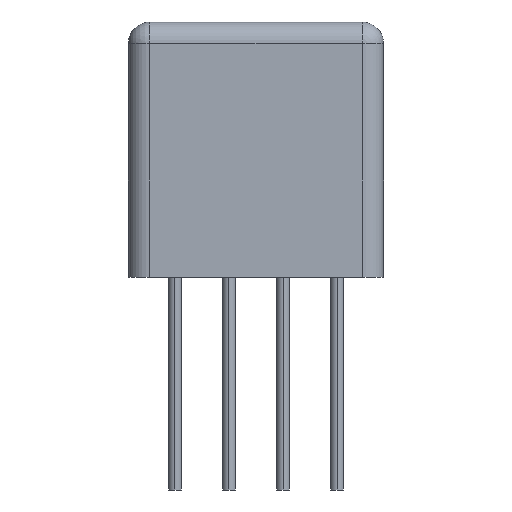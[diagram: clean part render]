
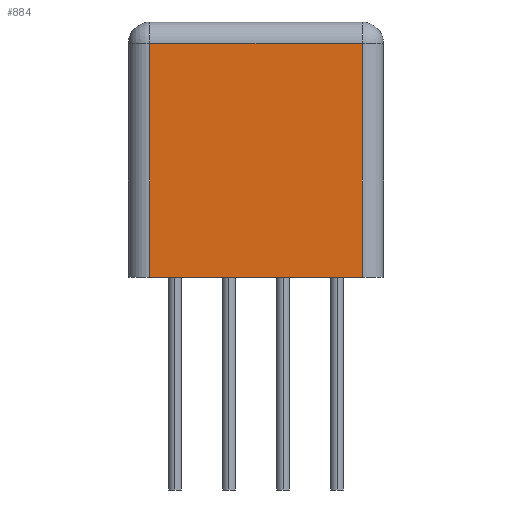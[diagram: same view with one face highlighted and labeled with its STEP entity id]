
A CAD part, left-side view. The second image highlights one B-rep face of the part: STEP entity #884.
In plain terms, the highlighted planar face has unit normal (-1, 0, 0).
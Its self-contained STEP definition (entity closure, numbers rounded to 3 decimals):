
#438 = ORIENTED_EDGE ( 'NONE', *, *, #3883, .T. ) ;
#720 = VERTEX_POINT ( 'NONE', #3588 ) ;
#826 = CARTESIAN_POINT ( 'NONE',  ( -6., 6., 0. ) ) ;
#832 = LINE ( 'NONE', #4419, #6226 ) ;
#884 = ADVANCED_FACE ( 'NONE', ( #2307 ), #2841, .F. ) ;
#935 = VERTEX_POINT ( 'NONE', #1298 ) ;
#1021 = DIRECTION ( 'NONE',  ( 0., -1., 0. ) ) ;
#1298 = CARTESIAN_POINT ( 'NONE',  ( -6., -5., 0. ) ) ;
#1556 = DIRECTION ( 'NONE',  ( 0., 1., 0. ) ) ;
#1774 = VECTOR ( 'NONE', #1556, 1000. ) ;
#1867 = EDGE_CURVE ( 'NONE', #2407, #720, #3805, .T. ) ;
#1955 = CARTESIAN_POINT ( 'NONE',  ( -6., 6., 11. ) ) ;
#2307 = FACE_OUTER_BOUND ( 'NONE', #5392, .T. ) ;
#2407 = VERTEX_POINT ( 'NONE', #2522 ) ;
#2522 = CARTESIAN_POINT ( 'NONE',  ( -6., 5., 11. ) ) ;
#2748 = DIRECTION ( 'NONE',  ( 1., 0., 0. ) ) ;
#2841 = PLANE ( 'NONE',  #3219 ) ;
#3213 = VERTEX_POINT ( 'NONE', #4627 ) ;
#3219 = AXIS2_PLACEMENT_3D ( 'NONE', #4197, #2748, #4877 ) ;
#3333 = LINE ( 'NONE', #826, #4524 ) ;
#3588 = CARTESIAN_POINT ( 'NONE',  ( -6., 5., 0. ) ) ;
#3805 = LINE ( 'NONE', #5828, #6508 ) ;
#3883 = EDGE_CURVE ( 'NONE', #935, #3213, #832, .T. ) ;
#4197 = CARTESIAN_POINT ( 'NONE',  ( -6., 6., 12. ) ) ;
#4419 = CARTESIAN_POINT ( 'NONE',  ( -6., -5., 12. ) ) ;
#4453 = ORIENTED_EDGE ( 'NONE', *, *, #5001, .T. ) ;
#4524 = VECTOR ( 'NONE', #1021, 1000. ) ;
#4627 = CARTESIAN_POINT ( 'NONE',  ( -6., -5., 11. ) ) ;
#4877 = DIRECTION ( 'NONE',  ( 0., 1., 0. ) ) ;
#5001 = EDGE_CURVE ( 'NONE', #720, #935, #3333, .T. ) ;
#5041 = ORIENTED_EDGE ( 'NONE', *, *, #1867, .T. ) ;
#5102 = EDGE_CURVE ( 'NONE', #3213, #2407, #5545, .T. ) ;
#5110 = ORIENTED_EDGE ( 'NONE', *, *, #5102, .T. ) ;
#5392 = EDGE_LOOP ( 'NONE', ( #5110, #5041, #4453, #438 ) ) ;
#5421 = DIRECTION ( 'NONE',  ( 0., 0., 1. ) ) ;
#5545 = LINE ( 'NONE', #1955, #1774 ) ;
#5828 = CARTESIAN_POINT ( 'NONE',  ( -6., 5., 0. ) ) ;
#5920 = DIRECTION ( 'NONE',  ( 0., 0., -1. ) ) ;
#6226 = VECTOR ( 'NONE', #5421, 1000. ) ;
#6508 = VECTOR ( 'NONE', #5920, 1000. ) ;
